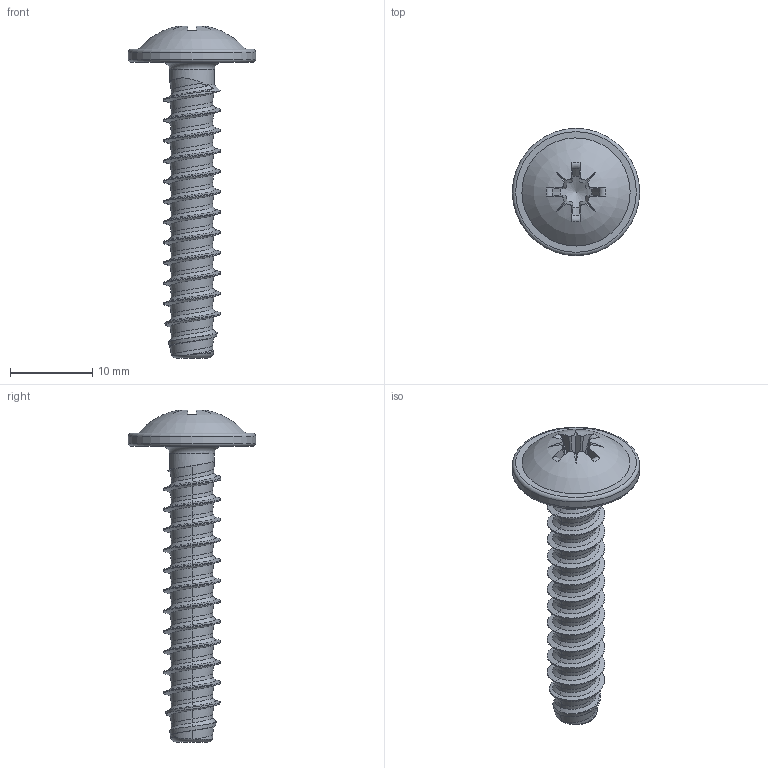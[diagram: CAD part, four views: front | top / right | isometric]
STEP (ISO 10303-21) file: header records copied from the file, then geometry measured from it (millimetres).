
FILE_DESCRIPTION(/* description */ (''),/* implementation_level */ '2;1');
FILE_NAME(/* name */ 'KN6031-STSplus-70x36-Z3.step',/* time_stamp */ '2017-10-09T17:09:45+02:00',/* author */ (''),/* organization */ (''),/* preprocessor_version */ 'ST-DEVELOPER v16',/* originating_system */ 'SIEMENS PLM Software NX 10.0',/* authorisation */ '');
FILE_SCHEMA (('AUTOMOTIVE_DESIGN { 1 0 10303 214 3 1 1 1 }'));
Length unit declared in the file: millimetre
Products named in the file (1): KN6031-STSplus-70x36-Z3
Bounding box: 15.5 x 15.5 x 40.43 mm (x, y, z)
Volume: 1326.8 mm3; surface area: 1406.9 mm2
Topology: 1 solids, 1 shells, 126 faces, 310 edges, 187 vertices
Faces by surface type: bspline 72, plane 27, cylinder 11, torus 8, cone 7, sphere 1
Full cylindrical faces by diameter (mm): 5.48 x1, 15.5 x1
Entity records: 8246 total; most frequent: CARTESIAN_POINT 5819, ORIENTED_EDGE 592, DIRECTION 306, EDGE_CURVE 296, VERTEX_POINT 182, B_SPLINE_CURVE_WITH_KNOTS 148, EDGE_LOOP 135, ADVANCED_FACE 126
